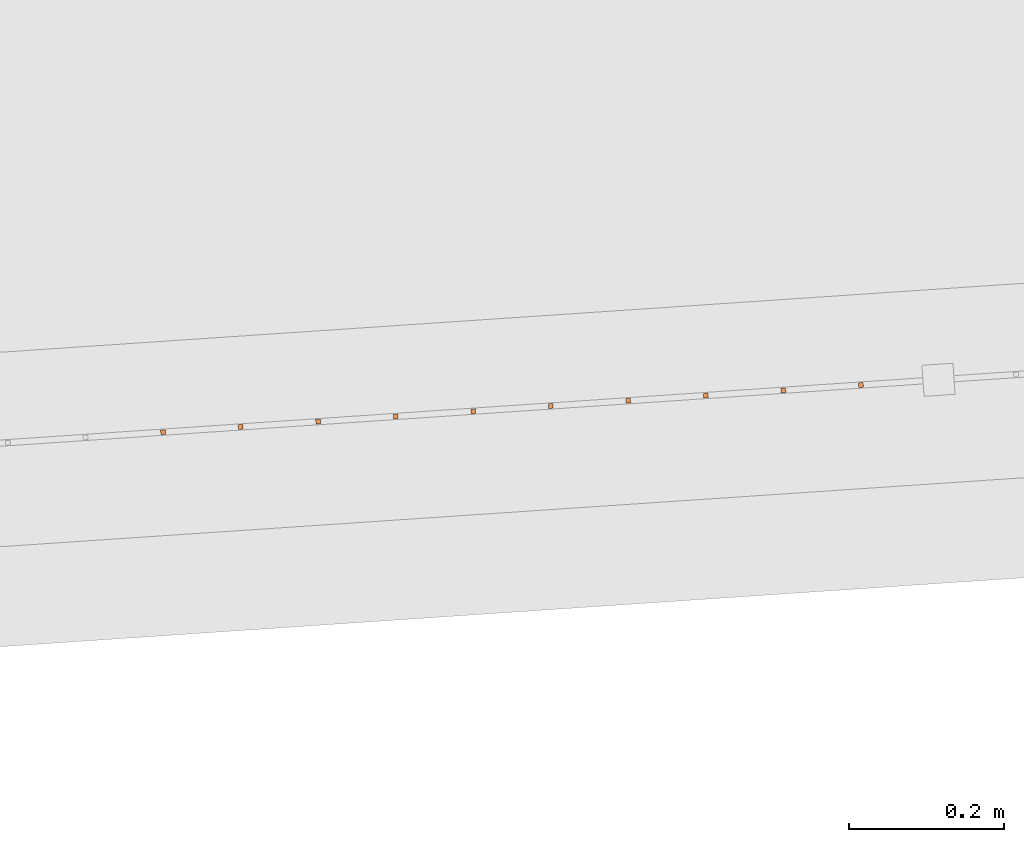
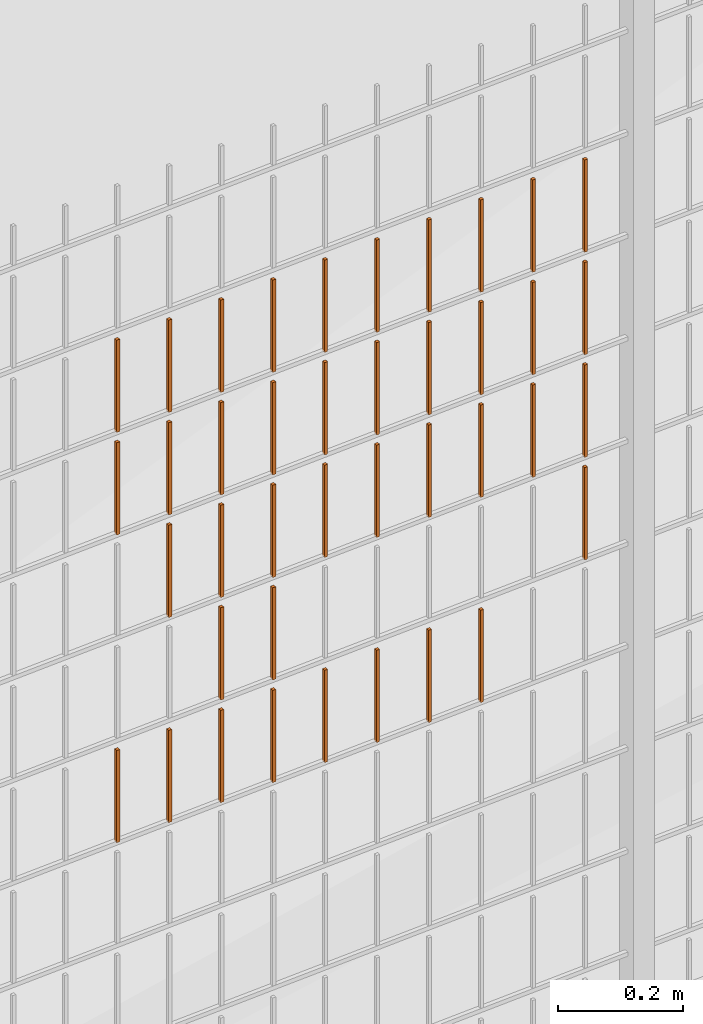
# One storey, part 81 of 1809: 40 proxies, 1 element without a shape of its own.
"""IFC2X3 building model written with IfcOpenShell, lengths in millimetres."""

from ifc_helpers import new_model, entity, si_unit, converted_unit, derived_unit, money_unit, direction, frame, origin_with_axes, place, context, subcontext, project, spatial, faceted_brep, source, transform, mapped, material, type_object, element, aggregate, save


model = new_model("IFC2X3")

# Units and contexts
model_context = context("Model", 3, precision=0.01, world=origin_with_axes(), true_north=direction((0.0, 1.0)))
body_context = subcontext(model_context, "Body", "Model", "MODEL_VIEW")
ifc_project = project(units=[si_unit("LENGTHUNIT", "METRE", prefix="MILLI"), si_unit("AREAUNIT", "SQUARE_METRE"), si_unit("VOLUMEUNIT", "CUBIC_METRE"), converted_unit("PLANEANGLEUNIT", "DEGREE", entity("IfcPlaneAngleMeasure", 0.0174532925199), si_unit("PLANEANGLEUNIT", "RADIAN"), dimensions=[0, 0, 0, 0, 0, 0, 0]), si_unit("SOLIDANGLEUNIT", "STERADIAN"), money_unit("EUR"), converted_unit("TIMEUNIT", "Year", entity("IfcTimeMeasure", 31556926.0), si_unit("TIMEUNIT", "SECOND"), dimensions=[0, 0, 1, 0, 0, 0, 0]), si_unit("MASSUNIT", "GRAM", prefix="KILO"), si_unit("THERMODYNAMICTEMPERATUREUNIT", "DEGREE_CELSIUS"), si_unit("LUMINOUSINTENSITYUNIT", "LUMEN"), si_unit("ENERGYUNIT", "JOULE", prefix="MEGA"), derived_unit("THERMALCONDUCTANCEUNIT", [(si_unit("POWERUNIT", "WATT"), 1), (si_unit("LENGTHUNIT", "METRE"), -1), (si_unit("THERMODYNAMICTEMPERATUREUNIT", "KELVIN"), -1)]), derived_unit("SPECIFICHEATCAPACITYUNIT", [(si_unit("ENERGYUNIT", "JOULE"), 1), (si_unit("MASSUNIT", "GRAM", prefix="KILO"), -1), (si_unit("THERMODYNAMICTEMPERATUREUNIT", "KELVIN"), -1)]), derived_unit("MASSDENSITYUNIT", [(si_unit("MASSUNIT", "GRAM", prefix="KILO"), 1), (si_unit("VOLUMEUNIT", "CUBIC_METRE"), -1)])], contexts=[model_context])

# Site, building, storey
site_placement = place(None, origin_with_axes())
site = spatial("IfcSite", under=ifc_project, at=site_placement, Name="Politse- ja Piirivalveameti ning Päästeameti ühishoone", CompositionType="ELEMENT")
building_placement = place(site_placement, origin_with_axes())
building = spatial("IfcBuilding", under=site, at=building_placement, Name="Politse- ja Piirivalveameti ning Päästeameti ühishoone", CompositionType="ELEMENT")
storey_placement = place(building_placement, origin_with_axes())
storey = spatial("IfcBuildingStorey", under=building, at=storey_placement, Name="Esimene korrus", CompositionType="ELEMENT", Elevation=0.0)

# Proxies
building_element_proxy_type_1 = type_object("IfcBuildingElementProxyType", Name="Railing Type", PredefinedType="NOTDEFINED")
proxy_1_placement = place(storey_placement, frame((89252.001212, -29183.4766571, 203.661247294), z_axis=(0.0, 0.0, 1.0), x_axis=(1.0, 0.0, 0.0)))
proxy_1 = element("IfcBuildingElementProxy", 1, at=proxy_1_placement, inside=storey, type_object=building_element_proxy_type_1, Name="PIIRDEAED")
ifc_material = material(Name="ET-03_Raud")
building_element_proxy_type_2 = type_object("IfcBuildingElementProxyType", Name="IfcBuildingElementProxy", PredefinedType="NOTDEFINED")
shared_shape_1 = source(origin_with_axes(), body_context, "Body", "Brep", [
    faceted_brep([(3.0, 3.0, -0.000752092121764), (-3.0, 3.0, -0.000752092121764), (-3.0, 3.0, 179.99926046), (3.0, 3.0, 179.99926046), (3.0, -3.0, 0.000752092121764), (-3.0, -3.0, 0.000752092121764), (-3.0, -3.0, 180.000764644), (3.0, -3.0, 180.000764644)], [[[0, 1, 2, 3]], [[0, 4, 5, 1]], [[1, 5, 6, 2]], [[3, 2, 6, 7]], [[4, 0, 3, 7]], [[5, 4, 7, 6]]]),
])
proxy_2_placement = place(proxy_1_placement, frame((-102592.914603, -24227.5389714, 801.456004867), z_axis=(0.0, 0.0, 1.0), x_axis=(1.0, 0.0, 0.0)))
proxy_2 = element("IfcBuildingElementProxy", 2, at=proxy_2_placement, type_object=building_element_proxy_type_2, material=ifc_material, Name="BALUSTER - 001", context=body_context, shape_type="MappedRepresentation", body=[
    mapped(shared_shape_1, transform((0.0, 0.0, 0.0), x_axis=(-0.0673926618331, 0.997726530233, 0.0), y_axis=(-0.997726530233, -0.0673926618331, 0.0), z_axis=(0.0, 0.0, 1.0))),
])
proxy_3_placement = place(proxy_1_placement, frame((-102692.687256, -24234.2782375, 801.43093513), z_axis=(0.0, 0.0, 1.0), x_axis=(1.0, 0.0, 0.0)))
proxy_3 = element("IfcBuildingElementProxy", 3, at=proxy_3_placement, type_object=building_element_proxy_type_2, material=ifc_material, Name="BALUSTER - 001", context=body_context, shape_type="MappedRepresentation", body=[
    mapped(shared_shape_1, transform((0.0, 0.0, 0.0), x_axis=(-0.0673926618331, 0.997726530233, 0.0), y_axis=(-0.997726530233, -0.0673926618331, 0.0), z_axis=(0.0, 0.0, 1.0))),
])
proxy_4_placement = place(proxy_1_placement, frame((-102193.823991, -24200.5819066, 1201.55628382), z_axis=(0.0, 0.0, 1.0), x_axis=(1.0, 0.0, 0.0)))
proxy_4 = element("IfcBuildingElementProxy", 4, at=proxy_4_placement, type_object=building_element_proxy_type_2, material=ifc_material, Name="BALUSTER - 001", context=body_context, shape_type="MappedRepresentation", body=[
    mapped(shared_shape_1, transform((0.0, 0.0, 0.0), x_axis=(-0.0673926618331, 0.997726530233, 0.0), y_axis=(-0.997726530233, -0.0673926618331, 0.0), z_axis=(0.0, 0.0, 1.0))),
])
shared_shape_2 = source(origin_with_axes(), body_context, "Body", "Brep", [
    faceted_brep([(3.0, 3.0, -0.000752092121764), (-3.0, 3.0, -0.000752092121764), (-3.0, 3.0, 179.99926046), (3.0, 3.0, 179.99926046), (3.0, -3.0, 0.000752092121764), (-3.0, -3.0, 0.000752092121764), (-3.0, -3.0, 180.000764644), (3.0, -3.0, 180.000764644)], [[[0, 1, 2, 3]], [[0, 4, 5, 1]], [[1, 5, 6, 2]], [[3, 2, 6, 7]], [[4, 0, 3, 7]], [[5, 4, 7, 6]]]),
])
proxy_5_placement = place(proxy_1_placement, frame((-102193.823991, -24200.5819066, 1401.55628382), z_axis=(0.0, 0.0, 1.0), x_axis=(1.0, 0.0, 0.0)))
proxy_5 = element("IfcBuildingElementProxy", 5, at=proxy_5_placement, type_object=building_element_proxy_type_2, material=ifc_material, Name="BALUSTER - 001", context=body_context, shape_type="MappedRepresentation", body=[
    mapped(shared_shape_2, transform((0.0, 0.0, 0.0), x_axis=(-0.0673926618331, 0.997726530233, 0.0), y_axis=(-0.997726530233, -0.0673926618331, 0.0), z_axis=(0.0, 0.0, 1.0))),
])
proxy_6_placement = place(proxy_1_placement, frame((-102193.823991, -24200.5819066, 1601.55628382), z_axis=(0.0, 0.0, 1.0), x_axis=(1.0, 0.0, 0.0)))
proxy_6 = element("IfcBuildingElementProxy", 6, at=proxy_6_placement, type_object=building_element_proxy_type_2, material=ifc_material, Name="BALUSTER - 001", context=body_context, shape_type="MappedRepresentation", body=[
    mapped(shared_shape_2, transform((0.0, 0.0, 0.0), x_axis=(-0.0673926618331, 0.997726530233, 0.0), y_axis=(-0.997726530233, -0.0673926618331, 0.0), z_axis=(0.0, 0.0, 1.0))),
])
shared_shape_3 = source(origin_with_axes(), body_context, "Body", "Brep", [
    faceted_brep([(3.0, 3.0, -0.000752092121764), (-3.0, 3.0, -0.000752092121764), (-3.0, 3.0, 179.99926046), (3.0, 3.0, 179.99926046), (3.0, -3.0, 0.000752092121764), (-3.0, -3.0, 0.000752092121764), (-3.0, -3.0, 180.000764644), (3.0, -3.0, 180.000764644)], [[[0, 1, 2, 3]], [[0, 4, 5, 1]], [[1, 5, 6, 2]], [[3, 2, 6, 7]], [[4, 0, 3, 7]], [[5, 4, 7, 6]]]),
])
proxy_7_placement = place(proxy_1_placement, frame((-102792.459909, -24241.0175037, 801.405865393), z_axis=(0.0, 0.0, 1.0), x_axis=(1.0, 0.0, 0.0)))
proxy_7 = element("IfcBuildingElementProxy", 7, at=proxy_7_placement, type_object=building_element_proxy_type_2, material=ifc_material, Name="BALUSTER - 001", context=body_context, shape_type="MappedRepresentation", body=[
    mapped(shared_shape_3, transform((0.0, 0.0, 0.0), x_axis=(-0.0673926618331, 0.997726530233, 0.0), y_axis=(-0.997726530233, -0.0673926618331, 0.0), z_axis=(0.0, 0.0, 1.0))),
])
shared_shape_4 = source(origin_with_axes(), body_context, "Body", "Brep", [
    faceted_brep([(3.0, 3.0, -0.000752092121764), (-3.0, 3.0, -0.000752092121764), (-3.0, 3.0, 179.99926046), (3.0, 3.0, 179.99926046), (3.0, -3.0, 0.000752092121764), (-3.0, -3.0, 0.000752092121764), (-3.0, -3.0, 180.000764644), (3.0, -3.0, 180.000764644)], [[[0, 1, 2, 3]], [[0, 4, 5, 1]], [[1, 5, 6, 2]], [[3, 2, 6, 7]], [[4, 0, 3, 7]], [[5, 4, 7, 6]]]),
])
proxy_8_placement = place(proxy_1_placement, frame((-102493.14195, -24220.7997052, 1201.4810746), z_axis=(0.0, 0.0, 1.0), x_axis=(1.0, 0.0, 0.0)))
proxy_8 = element("IfcBuildingElementProxy", 8, at=proxy_8_placement, type_object=building_element_proxy_type_2, material=ifc_material, Name="BALUSTER - 001", context=body_context, shape_type="MappedRepresentation", body=[
    mapped(shared_shape_4, transform((0.0, 0.0, 0.0), x_axis=(-0.0673926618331, 0.997726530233, 0.0), y_axis=(-0.997726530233, -0.0673926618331, 0.0), z_axis=(0.0, 0.0, 1.0))),
])
shared_shape_5 = source(origin_with_axes(), body_context, "Body", "Brep", [
    faceted_brep([(3.0, 3.0, -0.000752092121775), (-3.0, 3.0, -0.000752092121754), (-3.0, 3.0, 179.99926046), (3.0, 3.0, 179.99926046), (3.0, -3.0, 0.000752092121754), (-3.0, -3.0, 0.000752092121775), (-3.0, -3.0, 180.000764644), (3.0, -3.0, 180.000764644)], [[[0, 1, 2, 3]], [[0, 4, 5, 1]], [[1, 5, 6, 2]], [[3, 2, 6, 7]], [[4, 0, 3, 7]], [[5, 4, 7, 6]]]),
])
proxy_9_placement = place(proxy_1_placement, frame((-102393.369297, -24214.060439, 1201.50614434), z_axis=(0.0, 0.0, 1.0), x_axis=(1.0, 0.0, 0.0)))
proxy_9 = element("IfcBuildingElementProxy", 9, at=proxy_9_placement, type_object=building_element_proxy_type_2, material=ifc_material, Name="BALUSTER - 001", context=body_context, shape_type="MappedRepresentation", body=[
    mapped(shared_shape_5, transform((0.0, 0.0, 0.0), x_axis=(-0.0673926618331, 0.997726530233, 0.0), y_axis=(-0.997726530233, -0.0673926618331, 0.0), z_axis=(0.0, 0.0, 1.0))),
])
shared_shape_6 = source(origin_with_axes(), body_context, "Body", "Brep", [
    faceted_brep([(3.0, 3.0, -0.000752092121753), (-3.0, 3.0, -0.000752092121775), (-3.0, 3.0, 179.99926046), (3.0, 3.0, 179.99926046), (3.0, -3.0, 0.000752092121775), (-3.0, -3.0, 0.000752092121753), (-3.0, -3.0, 180.000764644), (3.0, -3.0, 180.000764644)], [[[0, 1, 2, 3]], [[0, 4, 5, 1]], [[1, 5, 6, 2]], [[3, 2, 6, 7]], [[4, 0, 3, 7]], [[5, 4, 7, 6]]]),
])
proxy_10_placement = place(proxy_1_placement, frame((-102293.596644, -24207.3211728, 1201.53121408), z_axis=(0.0, 0.0, 1.0), x_axis=(1.0, 0.0, 0.0)))
proxy_10 = element("IfcBuildingElementProxy", 10, at=proxy_10_placement, type_object=building_element_proxy_type_2, material=ifc_material, Name="BALUSTER - 001", context=body_context, shape_type="MappedRepresentation", body=[
    mapped(shared_shape_6, transform((0.0, 0.0, 0.0), x_axis=(-0.0673926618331, 0.997726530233, 0.0), y_axis=(-0.997726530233, -0.0673926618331, 0.0), z_axis=(0.0, 0.0, 1.0))),
])
proxy_11_placement = place(proxy_1_placement, frame((-102592.914603, -24227.5389714, 1201.45600487), z_axis=(0.0, 0.0, 1.0), x_axis=(1.0, 0.0, 0.0)))
proxy_11 = element("IfcBuildingElementProxy", 11, at=proxy_11_placement, type_object=building_element_proxy_type_2, material=ifc_material, Name="BALUSTER - 001", context=body_context, shape_type="MappedRepresentation", body=[
    mapped(shared_shape_6, transform((0.0, 0.0, 0.0), x_axis=(-0.0673926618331, 0.997726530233, 0.0), y_axis=(-0.997726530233, -0.0673926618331, 0.0), z_axis=(0.0, 0.0, 1.0))),
])
proxy_12_placement = place(proxy_1_placement, frame((-102892.232562, -24247.7567699, 1201.38079566), z_axis=(0.0, 0.0, 1.0), x_axis=(1.0, 0.0, 0.0)))
proxy_12 = element("IfcBuildingElementProxy", 12, at=proxy_12_placement, type_object=building_element_proxy_type_2, material=ifc_material, Name="BALUSTER - 001", context=body_context, shape_type="MappedRepresentation", body=[
    mapped(shared_shape_6, transform((0.0, 0.0, 0.0), x_axis=(-0.0673926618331, 0.997726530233, 0.0), y_axis=(-0.997726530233, -0.0673926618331, 0.0), z_axis=(0.0, 0.0, 1.0))),
])
proxy_13_placement = place(proxy_1_placement, frame((-102992.005215, -24254.4960361, 1201.35572592), z_axis=(0.0, 0.0, 1.0), x_axis=(1.0, 0.0, 0.0)))
proxy_13 = element("IfcBuildingElementProxy", 13, at=proxy_13_placement, type_object=building_element_proxy_type_2, material=ifc_material, Name="BALUSTER - 001", context=body_context, shape_type="MappedRepresentation", body=[
    mapped(shared_shape_6, transform((0.0, 0.0, 0.0), x_axis=(-0.0673926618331, 0.997726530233, 0.0), y_axis=(-0.997726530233, -0.0673926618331, 0.0), z_axis=(0.0, 0.0, 1.0))),
])
shared_shape_7 = source(origin_with_axes(), body_context, "Body", "Brep", [
    faceted_brep([(3.0, 3.0, -0.000752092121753), (-3.0, 3.0, -0.000752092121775), (-3.0, 3.0, 179.99926046), (3.0, 3.0, 179.99926046), (3.0, -3.0, 0.000752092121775), (-3.0, -3.0, 0.000752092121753), (-3.0, -3.0, 180.000764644), (3.0, -3.0, 180.000764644)], [[[0, 1, 2, 3]], [[0, 4, 5, 1]], [[1, 5, 6, 2]], [[3, 2, 6, 7]], [[4, 0, 3, 7]], [[5, 4, 7, 6]]]),
])
proxy_14_placement = place(proxy_1_placement, frame((-103091.777868, -24261.2353023, 801.33065618), z_axis=(0.0, 0.0, 1.0), x_axis=(1.0, 0.0, 0.0)))
proxy_14 = element("IfcBuildingElementProxy", 14, at=proxy_14_placement, type_object=building_element_proxy_type_2, material=ifc_material, Name="BALUSTER - 001", context=body_context, shape_type="MappedRepresentation", body=[
    mapped(shared_shape_7, transform((0.0, 0.0, 0.0), x_axis=(-0.0673926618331, 0.997726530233, 0.0), y_axis=(-0.997726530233, -0.0673926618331, 0.0), z_axis=(0.0, 0.0, 1.0))),
])
shared_shape_8 = source(origin_with_axes(), body_context, "Body", "Brep", [
    faceted_brep([(3.0, 3.0, -0.000752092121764), (-3.0, 3.0, -0.000752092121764), (-3.0, 3.0, 179.99926046), (3.0, 3.0, 179.99926046), (3.0, -3.0, 0.000752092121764), (-3.0, -3.0, 0.000752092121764), (-3.0, -3.0, 180.000764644), (3.0, -3.0, 180.000764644)], [[[0, 1, 2, 3]], [[0, 4, 5, 1]], [[1, 5, 6, 2]], [[3, 2, 6, 7]], [[4, 0, 3, 7]], [[5, 4, 7, 6]]]),
])
proxy_15_placement = place(proxy_1_placement, frame((-102493.14195, -24220.7997052, 1401.4810746), z_axis=(0.0, 0.0, 1.0), x_axis=(1.0, 0.0, 0.0)))
proxy_15 = element("IfcBuildingElementProxy", 15, at=proxy_15_placement, type_object=building_element_proxy_type_2, material=ifc_material, Name="BALUSTER - 001", context=body_context, shape_type="MappedRepresentation", body=[
    mapped(shared_shape_8, transform((0.0, 0.0, 0.0), x_axis=(-0.0673926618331, 0.997726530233, 0.0), y_axis=(-0.997726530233, -0.0673926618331, 0.0), z_axis=(0.0, 0.0, 1.0))),
])
proxy_16_placement = place(proxy_1_placement, frame((-102493.14195, -24220.7997052, 1601.4810746), z_axis=(0.0, 0.0, 1.0), x_axis=(1.0, 0.0, 0.0)))
proxy_16 = element("IfcBuildingElementProxy", 16, at=proxy_16_placement, type_object=building_element_proxy_type_2, material=ifc_material, Name="BALUSTER - 001", context=body_context, shape_type="MappedRepresentation", body=[
    mapped(shared_shape_8, transform((0.0, 0.0, 0.0), x_axis=(-0.0673926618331, 0.997726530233, 0.0), y_axis=(-0.997726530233, -0.0673926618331, 0.0), z_axis=(0.0, 0.0, 1.0))),
])
shared_shape_9 = source(origin_with_axes(), body_context, "Body", "Brep", [
    faceted_brep([(3.0, 3.0, -0.000752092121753), (-3.0, 3.0, -0.000752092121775), (-3.0, 3.0, 179.99926046), (3.0, 3.0, 179.99926046), (3.0, -3.0, 0.000752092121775), (-3.0, -3.0, 0.000752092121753), (-3.0, -3.0, 180.000764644), (3.0, -3.0, 180.000764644)], [[[0, 1, 2, 3]], [[0, 4, 5, 1]], [[1, 5, 6, 2]], [[3, 2, 6, 7]], [[4, 0, 3, 7]], [[5, 4, 7, 6]]]),
])
proxy_17_placement = place(proxy_1_placement, frame((-102293.596644, -24207.3211728, 1401.53121408), z_axis=(0.0, 0.0, 1.0), x_axis=(1.0, 0.0, 0.0)))
proxy_17 = element("IfcBuildingElementProxy", 17, at=proxy_17_placement, type_object=building_element_proxy_type_2, material=ifc_material, Name="BALUSTER - 001", context=body_context, shape_type="MappedRepresentation", body=[
    mapped(shared_shape_9, transform((0.0, 0.0, 0.0), x_axis=(-0.0673926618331, 0.997726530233, 0.0), y_axis=(-0.997726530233, -0.0673926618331, 0.0), z_axis=(0.0, 0.0, 1.0))),
])
proxy_18_placement = place(proxy_1_placement, frame((-102592.914603, -24227.5389714, 1401.45600487), z_axis=(0.0, 0.0, 1.0), x_axis=(1.0, 0.0, 0.0)))
proxy_18 = element("IfcBuildingElementProxy", 18, at=proxy_18_placement, type_object=building_element_proxy_type_2, material=ifc_material, Name="BALUSTER - 001", context=body_context, shape_type="MappedRepresentation", body=[
    mapped(shared_shape_9, transform((0.0, 0.0, 0.0), x_axis=(-0.0673926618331, 0.997726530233, 0.0), y_axis=(-0.997726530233, -0.0673926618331, 0.0), z_axis=(0.0, 0.0, 1.0))),
])
proxy_19_placement = place(proxy_1_placement, frame((-102892.232562, -24247.7567699, 1401.38079566), z_axis=(0.0, 0.0, 1.0), x_axis=(1.0, 0.0, 0.0)))
proxy_19 = element("IfcBuildingElementProxy", 19, at=proxy_19_placement, type_object=building_element_proxy_type_2, material=ifc_material, Name="BALUSTER - 001", context=body_context, shape_type="MappedRepresentation", body=[
    mapped(shared_shape_9, transform((0.0, 0.0, 0.0), x_axis=(-0.0673926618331, 0.997726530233, 0.0), y_axis=(-0.997726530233, -0.0673926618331, 0.0), z_axis=(0.0, 0.0, 1.0))),
])
proxy_20_placement = place(proxy_1_placement, frame((-102992.005215, -24254.4960361, 1401.35572592), z_axis=(0.0, 0.0, 1.0), x_axis=(1.0, 0.0, 0.0)))
proxy_20 = element("IfcBuildingElementProxy", 20, at=proxy_20_placement, type_object=building_element_proxy_type_2, material=ifc_material, Name="BALUSTER - 001", context=body_context, shape_type="MappedRepresentation", body=[
    mapped(shared_shape_9, transform((0.0, 0.0, 0.0), x_axis=(-0.0673926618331, 0.997726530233, 0.0), y_axis=(-0.997726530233, -0.0673926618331, 0.0), z_axis=(0.0, 0.0, 1.0))),
])
proxy_21_placement = place(proxy_1_placement, frame((-102293.596644, -24207.3211728, 1601.53121408), z_axis=(0.0, 0.0, 1.0), x_axis=(1.0, 0.0, 0.0)))
proxy_21 = element("IfcBuildingElementProxy", 21, at=proxy_21_placement, type_object=building_element_proxy_type_2, material=ifc_material, Name="BALUSTER - 001", context=body_context, shape_type="MappedRepresentation", body=[
    mapped(shared_shape_9, transform((0.0, 0.0, 0.0), x_axis=(-0.0673926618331, 0.997726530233, 0.0), y_axis=(-0.997726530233, -0.0673926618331, 0.0), z_axis=(0.0, 0.0, 1.0))),
])
proxy_22_placement = place(proxy_1_placement, frame((-102592.914603, -24227.5389714, 1601.45600487), z_axis=(0.0, 0.0, 1.0), x_axis=(1.0, 0.0, 0.0)))
proxy_22 = element("IfcBuildingElementProxy", 22, at=proxy_22_placement, type_object=building_element_proxy_type_2, material=ifc_material, Name="BALUSTER - 001", context=body_context, shape_type="MappedRepresentation", body=[
    mapped(shared_shape_9, transform((0.0, 0.0, 0.0), x_axis=(-0.0673926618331, 0.997726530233, 0.0), y_axis=(-0.997726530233, -0.0673926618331, 0.0), z_axis=(0.0, 0.0, 1.0))),
])
proxy_23_placement = place(proxy_1_placement, frame((-102892.232562, -24247.7567699, 1601.38079566), z_axis=(0.0, 0.0, 1.0), x_axis=(1.0, 0.0, 0.0)))
proxy_23 = element("IfcBuildingElementProxy", 23, at=proxy_23_placement, type_object=building_element_proxy_type_2, material=ifc_material, Name="BALUSTER - 001", context=body_context, shape_type="MappedRepresentation", body=[
    mapped(shared_shape_9, transform((0.0, 0.0, 0.0), x_axis=(-0.0673926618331, 0.997726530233, 0.0), y_axis=(-0.997726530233, -0.0673926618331, 0.0), z_axis=(0.0, 0.0, 1.0))),
])
proxy_24_placement = place(proxy_1_placement, frame((-102992.005215, -24254.4960361, 1601.35572592), z_axis=(0.0, 0.0, 1.0), x_axis=(1.0, 0.0, 0.0)))
proxy_24 = element("IfcBuildingElementProxy", 24, at=proxy_24_placement, type_object=building_element_proxy_type_2, material=ifc_material, Name="BALUSTER - 001", context=body_context, shape_type="MappedRepresentation", body=[
    mapped(shared_shape_9, transform((0.0, 0.0, 0.0), x_axis=(-0.0673926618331, 0.997726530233, 0.0), y_axis=(-0.997726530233, -0.0673926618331, 0.0), z_axis=(0.0, 0.0, 1.0))),
])
shared_shape_10 = source(origin_with_axes(), body_context, "Body", "Brep", [
    faceted_brep([(3.0, 3.0, -0.000752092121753), (-3.0, 3.0, -0.000752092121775), (-3.0, 3.0, 179.99926046), (3.0, 3.0, 179.99926046), (3.0, -3.0, 0.000752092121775), (-3.0, -3.0, 0.000752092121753), (-3.0, -3.0, 180.000764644), (3.0, -3.0, 180.000764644)], [[[0, 1, 2, 3]], [[0, 4, 5, 1]], [[1, 5, 6, 2]], [[3, 2, 6, 7]], [[4, 0, 3, 7]], [[5, 4, 7, 6]]]),
])
proxy_25_placement = place(proxy_1_placement, frame((-102393.369297, -24214.060439, 801.506144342), z_axis=(0.0, 0.0, 1.0), x_axis=(1.0, 0.0, 0.0)))
proxy_25 = element("IfcBuildingElementProxy", 25, at=proxy_25_placement, type_object=building_element_proxy_type_2, material=ifc_material, Name="BALUSTER - 001", context=body_context, shape_type="MappedRepresentation", body=[
    mapped(shared_shape_10, transform((0.0, 0.0, 0.0), x_axis=(-0.0673926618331, 0.997726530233, 0.0), y_axis=(-0.997726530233, -0.0673926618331, 0.0), z_axis=(0.0, 0.0, 1.0))),
])
proxy_26_placement = place(proxy_1_placement, frame((-102792.459909, -24241.0175037, 1201.40586539), z_axis=(0.0, 0.0, 1.0), x_axis=(1.0, 0.0, 0.0)))
proxy_26 = element("IfcBuildingElementProxy", 26, at=proxy_26_placement, type_object=building_element_proxy_type_2, material=ifc_material, Name="BALUSTER - 001", context=body_context, shape_type="MappedRepresentation", body=[
    mapped(shared_shape_10, transform((0.0, 0.0, 0.0), x_axis=(-0.0673926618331, 0.997726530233, 0.0), y_axis=(-0.997726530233, -0.0673926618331, 0.0), z_axis=(0.0, 0.0, 1.0))),
])
shared_shape_11 = source(origin_with_axes(), body_context, "Body", "Brep", [
    faceted_brep([(3.0, 3.0, -0.000752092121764), (-3.0, 3.0, -0.000752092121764), (-3.0, 3.0, 179.99926046), (3.0, 3.0, 179.99926046), (3.0, -3.0, 0.000752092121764), (-3.0, -3.0, 0.000752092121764), (-3.0, -3.0, 180.000764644), (3.0, -3.0, 180.000764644)], [[[0, 1, 2, 3]], [[0, 4, 5, 1]], [[1, 5, 6, 2]], [[3, 2, 6, 7]], [[4, 0, 3, 7]], [[5, 4, 7, 6]]]),
])
proxy_27_placement = place(proxy_1_placement, frame((-102692.687256, -24234.2782375, 1201.43093513), z_axis=(0.0, 0.0, 1.0), x_axis=(1.0, 0.0, 0.0)))
proxy_27 = element("IfcBuildingElementProxy", 27, at=proxy_27_placement, type_object=building_element_proxy_type_2, material=ifc_material, Name="BALUSTER - 001", context=body_context, shape_type="MappedRepresentation", body=[
    mapped(shared_shape_11, transform((0.0, 0.0, 0.0), x_axis=(-0.0673926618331, 0.997726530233, 0.0), y_axis=(-0.997726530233, -0.0673926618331, 0.0), z_axis=(0.0, 0.0, 1.0))),
])
shared_shape_12 = source(origin_with_axes(), body_context, "Body", "Brep", [
    faceted_brep([(3.0, 3.0, -0.000752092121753), (-3.0, 3.0, -0.000752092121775), (-3.0, 3.0, 179.99926046), (3.0, 3.0, 179.99926046), (3.0, -3.0, 0.000752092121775), (-3.0, -3.0, 0.000752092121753), (-3.0, -3.0, 180.000764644), (3.0, -3.0, 180.000764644)], [[[0, 1, 2, 3]], [[0, 4, 5, 1]], [[1, 5, 6, 2]], [[3, 2, 6, 7]], [[4, 0, 3, 7]], [[5, 4, 7, 6]]]),
])
proxy_28_placement = place(proxy_1_placement, frame((-102992.005215, -24254.4960361, 801.355725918), z_axis=(0.0, 0.0, 1.0), x_axis=(1.0, 0.0, 0.0)))
proxy_28 = element("IfcBuildingElementProxy", 28, at=proxy_28_placement, type_object=building_element_proxy_type_2, material=ifc_material, Name="BALUSTER - 001", context=body_context, shape_type="MappedRepresentation", body=[
    mapped(shared_shape_12, transform((0.0, 0.0, 0.0), x_axis=(-0.0673926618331, 0.997726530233, 0.0), y_axis=(-0.997726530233, -0.0673926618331, 0.0), z_axis=(0.0, 0.0, 1.0))),
])
shared_shape_13 = source(origin_with_axes(), body_context, "Body", "Brep", [
    faceted_brep([(3.0, 3.0, -0.000752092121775), (-3.0, 3.0, -0.000752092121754), (-3.0, 3.0, 179.99926046), (3.0, 3.0, 179.99926046), (3.0, -3.0, 0.000752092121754), (-3.0, -3.0, 0.000752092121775), (-3.0, -3.0, 180.000764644), (3.0, -3.0, 180.000764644)], [[[0, 1, 2, 3]], [[0, 4, 5, 1]], [[1, 5, 6, 2]], [[3, 2, 6, 7]], [[4, 0, 3, 7]], [[5, 4, 7, 6]]]),
])
proxy_29_placement = place(proxy_1_placement, frame((-102393.369297, -24214.060439, 1401.50614434), z_axis=(0.0, 0.0, 1.0), x_axis=(1.0, 0.0, 0.0)))
proxy_29 = element("IfcBuildingElementProxy", 29, at=proxy_29_placement, type_object=building_element_proxy_type_2, material=ifc_material, Name="BALUSTER - 001", context=body_context, shape_type="MappedRepresentation", body=[
    mapped(shared_shape_13, transform((0.0, 0.0, 0.0), x_axis=(-0.0673926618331, 0.997726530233, 0.0), y_axis=(-0.997726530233, -0.0673926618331, 0.0), z_axis=(0.0, 0.0, 1.0))),
])
proxy_30_placement = place(proxy_1_placement, frame((-102393.369297, -24214.060439, 1601.50614434), z_axis=(0.0, 0.0, 1.0), x_axis=(1.0, 0.0, 0.0)))
proxy_30 = element("IfcBuildingElementProxy", 30, at=proxy_30_placement, type_object=building_element_proxy_type_2, material=ifc_material, Name="BALUSTER - 001", context=body_context, shape_type="MappedRepresentation", body=[
    mapped(shared_shape_13, transform((0.0, 0.0, 0.0), x_axis=(-0.0673926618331, 0.997726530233, 0.0), y_axis=(-0.997726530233, -0.0673926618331, 0.0), z_axis=(0.0, 0.0, 1.0))),
])
shared_shape_14 = source(origin_with_axes(), body_context, "Body", "Brep", [
    faceted_brep([(3.0, 3.0, -0.000752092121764), (-3.0, 3.0, -0.000752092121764), (-3.0, 3.0, 179.99926046), (3.0, 3.0, 179.99926046), (3.0, -3.0, 0.000752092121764), (-3.0, -3.0, 0.000752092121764), (-3.0, -3.0, 180.000764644), (3.0, -3.0, 180.000764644)], [[[0, 1, 2, 3]], [[0, 4, 5, 1]], [[1, 5, 6, 2]], [[3, 2, 6, 7]], [[4, 0, 3, 7]], [[5, 4, 7, 6]]]),
])
proxy_31_placement = place(proxy_1_placement, frame((-102692.687256, -24234.2782375, 1401.43093513), z_axis=(0.0, 0.0, 1.0), x_axis=(1.0, 0.0, 0.0)))
proxy_31 = element("IfcBuildingElementProxy", 31, at=proxy_31_placement, type_object=building_element_proxy_type_2, material=ifc_material, Name="BALUSTER - 001", context=body_context, shape_type="MappedRepresentation", body=[
    mapped(shared_shape_14, transform((0.0, 0.0, 0.0), x_axis=(-0.0673926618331, 0.997726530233, 0.0), y_axis=(-0.997726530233, -0.0673926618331, 0.0), z_axis=(0.0, 0.0, 1.0))),
])
proxy_32_placement = place(proxy_1_placement, frame((-102692.687256, -24234.2782375, 1601.43093513), z_axis=(0.0, 0.0, 1.0), x_axis=(1.0, 0.0, 0.0)))
proxy_32 = element("IfcBuildingElementProxy", 32, at=proxy_32_placement, type_object=building_element_proxy_type_2, material=ifc_material, Name="BALUSTER - 001", context=body_context, shape_type="MappedRepresentation", body=[
    mapped(shared_shape_14, transform((0.0, 0.0, 0.0), x_axis=(-0.0673926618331, 0.997726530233, 0.0), y_axis=(-0.997726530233, -0.0673926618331, 0.0), z_axis=(0.0, 0.0, 1.0))),
])
shared_shape_15 = source(origin_with_axes(), body_context, "Body", "Brep", [
    faceted_brep([(3.0, 3.0, -0.000752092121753), (-3.0, 3.0, -0.000752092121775), (-3.0, 3.0, 179.99926046), (3.0, 3.0, 179.99926046), (3.0, -3.0, 0.000752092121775), (-3.0, -3.0, 0.000752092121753), (-3.0, -3.0, 180.000764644), (3.0, -3.0, 180.000764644)], [[[0, 1, 2, 3]], [[0, 4, 5, 1]], [[1, 5, 6, 2]], [[3, 2, 6, 7]], [[4, 0, 3, 7]], [[5, 4, 7, 6]]]),
])
proxy_33_placement = place(proxy_1_placement, frame((-102792.459909, -24241.0175037, 1401.40586539), z_axis=(0.0, 0.0, 1.0), x_axis=(1.0, 0.0, 0.0)))
proxy_33 = element("IfcBuildingElementProxy", 33, at=proxy_33_placement, type_object=building_element_proxy_type_2, material=ifc_material, Name="BALUSTER - 001", context=body_context, shape_type="MappedRepresentation", body=[
    mapped(shared_shape_15, transform((0.0, 0.0, 0.0), x_axis=(-0.0673926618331, 0.997726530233, 0.0), y_axis=(-0.997726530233, -0.0673926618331, 0.0), z_axis=(0.0, 0.0, 1.0))),
])
proxy_34_placement = place(proxy_1_placement, frame((-102792.459909, -24241.0175037, 1601.40586539), z_axis=(0.0, 0.0, 1.0), x_axis=(1.0, 0.0, 0.0)))
proxy_34 = element("IfcBuildingElementProxy", 34, at=proxy_34_placement, type_object=building_element_proxy_type_2, material=ifc_material, Name="BALUSTER - 001", context=body_context, shape_type="MappedRepresentation", body=[
    mapped(shared_shape_15, transform((0.0, 0.0, 0.0), x_axis=(-0.0673926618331, 0.997726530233, 0.0), y_axis=(-0.997726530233, -0.0673926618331, 0.0), z_axis=(0.0, 0.0, 1.0))),
])
shared_shape_16 = source(origin_with_axes(), body_context, "Body", "Brep", [
    faceted_brep([(3.0, 3.0, -0.000752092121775), (-3.0, 3.0, -0.000752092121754), (-3.0, 3.0, 179.99926046), (3.0, 3.0, 179.99926046), (3.0, -3.0, 0.000752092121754), (-3.0, -3.0, 0.000752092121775), (-3.0, -3.0, 180.000764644), (3.0, -3.0, 180.000764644)], [[[0, 1, 2, 3]], [[0, 4, 5, 1]], [[1, 5, 6, 2]], [[3, 2, 6, 7]], [[4, 0, 3, 7]], [[5, 4, 7, 6]]]),
])
proxy_35_placement = place(proxy_1_placement, frame((-102892.232562, -24247.7567699, 801.380795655), z_axis=(0.0, 0.0, 1.0), x_axis=(1.0, 0.0, 0.0)))
proxy_35 = element("IfcBuildingElementProxy", 35, at=proxy_35_placement, type_object=building_element_proxy_type_2, material=ifc_material, Name="BALUSTER - 001", context=body_context, shape_type="MappedRepresentation", body=[
    mapped(shared_shape_16, transform((0.0, 0.0, 0.0), x_axis=(-0.0673926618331, 0.997726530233, 0.0), y_axis=(-0.997726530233, -0.0673926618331, 0.0), z_axis=(0.0, 0.0, 1.0))),
])
shared_shape_17 = source(origin_with_axes(), body_context, "Body", "Brep", [
    faceted_brep([(3.0, 3.0, -0.000752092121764), (-3.0, 3.0, -0.000752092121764), (-3.0, 3.0, 179.99926046), (3.0, 3.0, 179.99926046), (3.0, -3.0, 0.000752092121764), (-3.0, -3.0, 0.000752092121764), (-3.0, -3.0, 180.000764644), (3.0, -3.0, 180.000764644)], [[[0, 1, 2, 3]], [[0, 4, 5, 1]], [[1, 5, 6, 2]], [[3, 2, 6, 7]], [[4, 0, 3, 7]], [[5, 4, 7, 6]]]),
])
proxy_36_placement = place(proxy_1_placement, frame((-102493.14195, -24220.7997052, 801.481074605), z_axis=(0.0, 0.0, 1.0), x_axis=(1.0, 0.0, 0.0)))
proxy_36 = element("IfcBuildingElementProxy", 36, at=proxy_36_placement, type_object=building_element_proxy_type_2, material=ifc_material, Name="BALUSTER - 001", context=body_context, shape_type="MappedRepresentation", body=[
    mapped(shared_shape_17, transform((0.0, 0.0, 0.0), x_axis=(-0.0673926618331, 0.997726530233, 0.0), y_axis=(-0.997726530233, -0.0673926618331, 0.0), z_axis=(0.0, 0.0, 1.0))),
])
shared_shape_18 = source(origin_with_axes(), body_context, "Body", "Brep", [
    faceted_brep([(3.0, 3.0, -0.000752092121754), (-3.0, 3.0, -0.000752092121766), (-3.00000000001, 3.00000000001, 179.99926046), (2.99999999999, 3.00000000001, 179.99926046), (3.0, -3.0, 0.000752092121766), (-3.0, -3.0, 0.000752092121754), (-3.00000000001, -2.99999999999, 180.000764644), (2.99999999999, -2.99999999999, 180.000764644)], [[[0, 1, 2, 3]], [[0, 4, 5, 1]], [[1, 5, 6, 2]], [[3, 2, 6, 7]], [[4, 0, 3, 7]], [[5, 4, 7, 6]]]),
])
proxy_37_placement = place(proxy_1_placement, frame((-102792.459909, -24241.0175037, 1001.40586539), z_axis=(0.0, 0.0, 1.0), x_axis=(1.0, 0.0, 0.0)))
proxy_37 = element("IfcBuildingElementProxy", 37, at=proxy_37_placement, type_object=building_element_proxy_type_2, material=ifc_material, Name="BALUSTER - 001", context=body_context, shape_type="MappedRepresentation", body=[
    mapped(shared_shape_18, transform((0.0, 0.0, 0.0), x_axis=(-0.0673926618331, 0.997726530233, 0.0), y_axis=(-0.997726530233, -0.0673926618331, 0.0), z_axis=(0.0, 0.0, 1.0))),
])
shared_shape_19 = source(origin_with_axes(), body_context, "Body", "Brep", [
    faceted_brep([(3.0, 3.0, -0.000752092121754), (-3.0, 3.0, -0.000752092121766), (-3.00000000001, 3.00000000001, 179.99926046), (2.99999999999, 3.00000000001, 179.99926046), (3.0, -3.0, 0.000752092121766), (-3.0, -3.0, 0.000752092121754), (-3.00000000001, -2.99999999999, 180.000764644), (2.99999999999, -2.99999999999, 180.000764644)], [[[0, 1, 2, 3]], [[0, 4, 5, 1]], [[1, 5, 6, 2]], [[3, 2, 6, 7]], [[4, 0, 3, 7]], [[5, 4, 7, 6]]]),
])
proxy_38_placement = place(proxy_1_placement, frame((-102193.823991, -24200.5819066, 1001.55628382), z_axis=(0.0, 0.0, 1.0), x_axis=(1.0, 0.0, 0.0)))
proxy_38 = element("IfcBuildingElementProxy", 38, at=proxy_38_placement, type_object=building_element_proxy_type_2, material=ifc_material, Name="BALUSTER - 001", context=body_context, shape_type="MappedRepresentation", body=[
    mapped(shared_shape_19, transform((0.0, 0.0, 0.0), x_axis=(-0.0673926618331, 0.997726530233, 0.0), y_axis=(-0.997726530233, -0.0673926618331, 0.0), z_axis=(0.0, 0.0, 1.0))),
])
proxy_39_placement = place(proxy_1_placement, frame((-102892.232562, -24247.7567699, 1001.38079566), z_axis=(0.0, 0.0, 1.0), x_axis=(1.0, 0.0, 0.0)))
proxy_39 = element("IfcBuildingElementProxy", 39, at=proxy_39_placement, type_object=building_element_proxy_type_2, material=ifc_material, Name="BALUSTER - 001", context=body_context, shape_type="MappedRepresentation", body=[
    mapped(shared_shape_19, transform((0.0, 0.0, 0.0), x_axis=(-0.0673926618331, 0.997726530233, 0.0), y_axis=(-0.997726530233, -0.0673926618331, 0.0), z_axis=(0.0, 0.0, 1.0))),
])
shared_shape_20 = source(origin_with_axes(), body_context, "Body", "Brep", [
    faceted_brep([(3.0, 3.0, -0.000752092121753), (-3.0, 3.0, -0.000752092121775), (-3.0, 3.0, 179.99926046), (3.0, 3.0, 179.99926046), (3.0, -3.0, 0.000752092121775), (-3.0, -3.0, 0.000752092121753), (-3.0, -3.0, 180.000764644), (3.0, -3.0, 180.000764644)], [[[0, 1, 2, 3]], [[0, 4, 5, 1]], [[1, 5, 6, 2]], [[3, 2, 6, 7]], [[4, 0, 3, 7]], [[5, 4, 7, 6]]]),
])
proxy_40_placement = place(proxy_1_placement, frame((-103091.777868, -24261.2353023, 1401.33065618), z_axis=(0.0, 0.0, 1.0), x_axis=(1.0, 0.0, 0.0)))
proxy_40 = element("IfcBuildingElementProxy", 40, at=proxy_40_placement, type_object=building_element_proxy_type_2, material=ifc_material, Name="BALUSTER - 001", context=body_context, shape_type="MappedRepresentation", body=[
    mapped(shared_shape_20, transform((0.0, 0.0, 0.0), x_axis=(-0.0673926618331, 0.997726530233, 0.0), y_axis=(-0.997726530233, -0.0673926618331, 0.0), z_axis=(0.0, 0.0, 1.0))),
])
proxy_41_placement = place(proxy_1_placement, frame((-103091.777868, -24261.2353023, 1601.33065618), z_axis=(0.0, 0.0, 1.0), x_axis=(1.0, 0.0, 0.0)))
proxy_41 = element("IfcBuildingElementProxy", 41, at=proxy_41_placement, type_object=building_element_proxy_type_2, material=ifc_material, Name="BALUSTER - 001", context=body_context, shape_type="MappedRepresentation", body=[
    mapped(shared_shape_20, transform((0.0, 0.0, 0.0), x_axis=(-0.0673926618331, 0.997726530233, 0.0), y_axis=(-0.997726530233, -0.0673926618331, 0.0), z_axis=(0.0, 0.0, 1.0))),
])
aggregate(proxy_1, [proxy_25, proxy_36, proxy_2, proxy_3, proxy_7, proxy_35, proxy_28, proxy_14, proxy_38, proxy_37, proxy_39, proxy_4, proxy_10, proxy_9, proxy_8, proxy_11, proxy_27, proxy_26, proxy_12, proxy_13, proxy_5, proxy_17, proxy_29, proxy_15, proxy_18, proxy_31, proxy_33, proxy_19, proxy_20, proxy_40, proxy_6, proxy_21, proxy_30, proxy_16, proxy_22, proxy_32, proxy_34, proxy_23, proxy_24, proxy_41])

save(model, "model.ifc")
